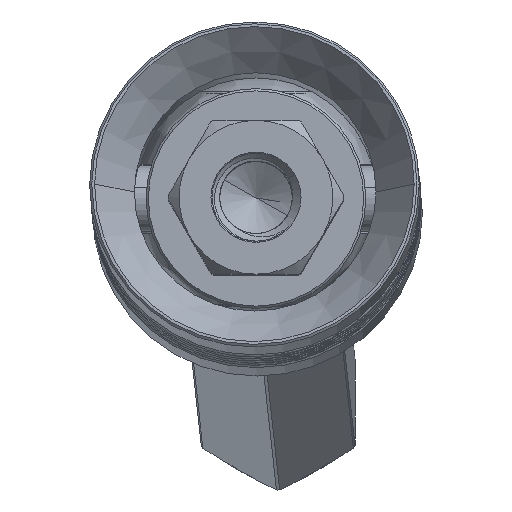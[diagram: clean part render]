
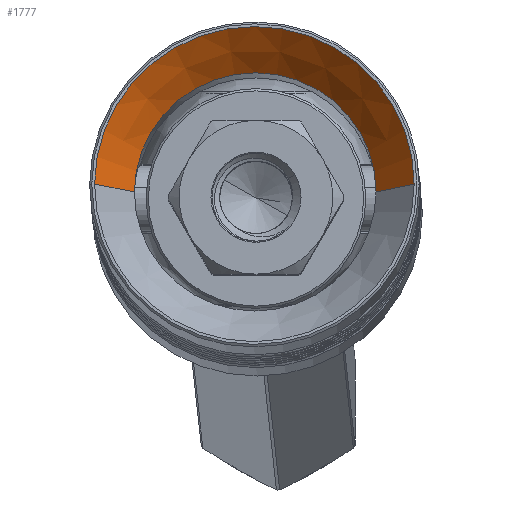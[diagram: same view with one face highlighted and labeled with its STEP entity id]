
A CAD part, top view. The second image highlights one B-rep face of the part: STEP entity #1777.
In plain terms, the highlighted conical face has half-angle 40 degrees and reference radius 7.291 mm.
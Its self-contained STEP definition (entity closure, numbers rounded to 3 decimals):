
#416 = CARTESIAN_POINT ( 'NONE',  ( 7.291, 0., 4.021 ) ) ;
#627 = ORIENTED_EDGE ( 'NONE', *, *, #15698, .T. ) ;
#800 = FACE_OUTER_BOUND ( 'NONE', #14349, .T. ) ;
#1777 = ADVANCED_FACE ( 'NONE', ( #800 ), #5287, .F. ) ;
#3020 = CIRCLE ( 'NONE', #6897, 7.273 ) ;
#3738 = DIRECTION ( 'NONE',  ( 0., 0., -1. ) ) ;
#4395 = EDGE_CURVE ( 'NONE', #15280, #18465, #7105, .T. ) ;
#4620 = DIRECTION ( 'NONE',  ( 0., 0., 1. ) ) ;
#5287 = CONICAL_SURFACE ( 'NONE', #8190, 7.291, 0.698 ) ;
#5455 = AXIS2_PLACEMENT_3D ( 'NONE', #6777, #3738, #18084 ) ;
#5537 = ORIENTED_EDGE ( 'NONE', *, *, #12452, .T. ) ;
#5824 = CARTESIAN_POINT ( 'NONE',  ( 0., 0., 4.021 ) ) ;
#6758 = EDGE_CURVE ( 'NONE', #17896, #18465, #3020, .T. ) ;
#6777 = CARTESIAN_POINT ( 'NONE',  ( 0., 0., 1.887 ) ) ;
#6897 = AXIS2_PLACEMENT_3D ( 'NONE', #7734, #4620, #17431 ) ;
#7105 = LINE ( 'NONE', #18653, #19829 ) ;
#7571 = DIRECTION ( 'NONE',  ( 1., 0., 0. ) ) ;
#7734 = CARTESIAN_POINT ( 'NONE',  ( 0., 0., 4. ) ) ;
#8190 = AXIS2_PLACEMENT_3D ( 'NONE', #5824, #10513, #7571 ) ;
#8256 = ORIENTED_EDGE ( 'NONE', *, *, #4395, .F. ) ;
#8286 = DIRECTION ( 'NONE',  ( 0.643, 0., 0.766 ) ) ;
#9056 = ORIENTED_EDGE ( 'NONE', *, *, #6758, .T. ) ;
#9146 = CARTESIAN_POINT ( 'NONE',  ( -5.5, 0., 1.887 ) ) ;
#9560 = VECTOR ( 'NONE', #8286, 1000. ) ;
#9643 = CIRCLE ( 'NONE', #5455, 5.5 ) ;
#10513 = DIRECTION ( 'NONE',  ( 0., 0., 1. ) ) ;
#11157 = VERTEX_POINT ( 'NONE', #20022 ) ;
#12318 = CARTESIAN_POINT ( 'NONE',  ( 7.273, 0., 4. ) ) ;
#12452 = EDGE_CURVE ( 'NONE', #15280, #11157, #9643, .T. ) ;
#14349 = EDGE_LOOP ( 'NONE', ( #8256, #5537, #627, #9056 ) ) ;
#15280 = VERTEX_POINT ( 'NONE', #9146 ) ;
#15698 = EDGE_CURVE ( 'NONE', #11157, #17896, #19522, .T. ) ;
#15934 = DIRECTION ( 'NONE',  ( -0.643, 0., 0.766 ) ) ;
#16201 = CARTESIAN_POINT ( 'NONE',  ( -7.273, 0., 4. ) ) ;
#17431 = DIRECTION ( 'NONE',  ( -1., 0., 0. ) ) ;
#17896 = VERTEX_POINT ( 'NONE', #12318 ) ;
#18084 = DIRECTION ( 'NONE',  ( -1., 0., 0. ) ) ;
#18465 = VERTEX_POINT ( 'NONE', #16201 ) ;
#18653 = CARTESIAN_POINT ( 'NONE',  ( -7.291, 0., 4.021 ) ) ;
#19522 = LINE ( 'NONE', #416, #9560 ) ;
#19829 = VECTOR ( 'NONE', #15934, 1000. ) ;
#20022 = CARTESIAN_POINT ( 'NONE',  ( 5.5, 0., 1.887 ) ) ;
